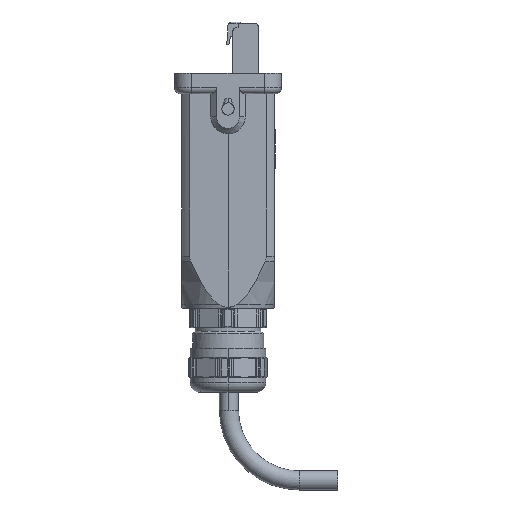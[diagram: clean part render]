
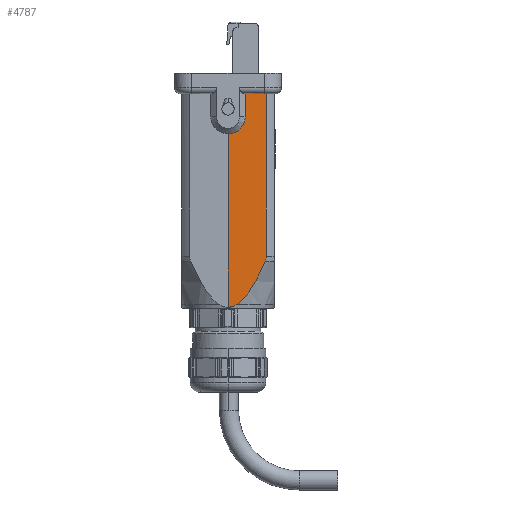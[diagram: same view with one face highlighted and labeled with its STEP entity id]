
A CAD part, left-side view. The second image highlights one B-rep face of the part: STEP entity #4787.
In plain terms, the highlighted planar face has unit normal (-1, -0.018, 0).
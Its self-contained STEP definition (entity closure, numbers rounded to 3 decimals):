
#38 = VERTEX_POINT ( 'NONE', #4069 ) ;
#94 = EDGE_CURVE ( 'NONE', #14131, #3953, #5449, .T. ) ;
#109 = VECTOR ( 'NONE', #11257, 1000. ) ;
#112 = EDGE_CURVE ( 'NONE', #2662, #7842, #10173, .T. ) ;
#185 = PLANE ( 'NONE',  #12356 ) ;
#719 = CARTESIAN_POINT ( 'NONE',  ( -11.724, -6.984, -0.005 ) ) ;
#973 = CARTESIAN_POINT ( 'NONE',  ( -11.724, -6.979, 7.139 ) ) ;
#1221 = CARTESIAN_POINT ( 'NONE',  ( -11.804, -2.405, 1.23 ) ) ;
#1362 = ORIENTED_EDGE ( 'NONE', *, *, #5481, .T. ) ;
#1663 = CARTESIAN_POINT ( 'NONE',  ( -11.82, -1.484, 0.673 ) ) ;
#1778 = CARTESIAN_POINT ( 'NONE',  ( -11.808, -2.164, 1.064 ) ) ;
#2041 = CARTESIAN_POINT ( 'NONE',  ( -11.85, 0.25, 45.7 ) ) ;
#2250 = CARTESIAN_POINT ( 'NONE',  ( -11.772, -4.228, 56.2 ) ) ;
#2547 = CARTESIAN_POINT ( 'NONE',  ( -11.679, -9.518, 12.345 ) ) ;
#2639 = CARTESIAN_POINT ( 'NONE',  ( -11.792, -3.082, 1.779 ) ) ;
#2662 = VERTEX_POINT ( 'NONE', #2250 ) ;
#2720 = LINE ( 'NONE', #3383, #3126 ) ;
#2775 = CARTESIAN_POINT ( 'NONE',  ( -11.772, -4.228, 58.7 ) ) ;
#2860 = EDGE_CURVE ( 'NONE', #16088, #9237, #11285, .T. ) ;
#3126 = VECTOR ( 'NONE', #13567, 1000. ) ;
#3211 = DIRECTION ( 'NONE',  ( 0.017, -1., 0. ) ) ;
#3382 = VECTOR ( 'NONE', #13301, 1000. ) ;
#3383 = CARTESIAN_POINT ( 'NONE',  ( -11.671, -10.012, 56.2 ) ) ;
#3425 = CARTESIAN_POINT ( 'NONE',  ( -11.674, -9.808, 13.22 ) ) ;
#3953 = VERTEX_POINT ( 'NONE', #13224 ) ;
#3993 = CARTESIAN_POINT ( 'NONE',  ( -11.812, -1.913, 0.92 ) ) ;
#4069 = CARTESIAN_POINT ( 'NONE',  ( -11.772, -4.228, 50.1 ) ) ;
#4302 = CARTESIAN_POINT ( 'NONE',  ( -11.671, -10.012, 60. ) ) ;
#4396 = ORIENTED_EDGE ( 'NONE', *, *, #7947, .F. ) ;
#4515 = DIRECTION ( 'NONE',  ( -1., -0.017, 0. ) ) ;
#4787 = ADVANCED_FACE ( 'NONE', ( #15510 ), #185, .T. ) ;
#5106 = ORIENTED_EDGE ( 'NONE', *, *, #94, .T. ) ;
#5221 = CARTESIAN_POINT ( 'NONE',  ( -11.842, -0.64, 0.388 ) ) ;
#5359 = CARTESIAN_POINT ( 'NONE',  ( -11.674, -9.808, 60. ) ) ;
#5368 = ORIENTED_EDGE ( 'NONE', *, *, #112, .F. ) ;
#5449 = LINE ( 'NONE', #5359, #10594 ) ;
#5481 = EDGE_CURVE ( 'NONE', #6294, #16088, #6124, .T. ) ;
#5786 = EDGE_CURVE ( 'NONE', #10080, #6294, #9073, .T. ) ;
#5964 = EDGE_CURVE ( 'NONE', #38, #10080, #12816, .T. ) ;
#6122 = CARTESIAN_POINT ( 'NONE',  ( -11.75, -5.479, 56.2 ) ) ;
#6124 = LINE ( 'NONE', #719, #109 ) ;
#6137 = CARTESIAN_POINT ( 'NONE',  ( -11.679, -9.518, 12.345 ) ) ;
#6294 = VERTEX_POINT ( 'NONE', #8189 ) ;
#6470 = CARTESIAN_POINT ( 'NONE',  ( -11.812, -1.913, 0.92 ) ) ;
#6643 = CARTESIAN_POINT ( 'NONE',  ( -11.772, -4.228, 56.2 ) ) ;
#6692 = CARTESIAN_POINT ( 'NONE',  ( -11.804, -2.364, 45.654 ) ) ;
#6729 = EDGE_CURVE ( 'NONE', #9237, #14948, #15131, .T. ) ;
#6930 = CARTESIAN_POINT ( 'NONE',  ( -11.756, -5.149, 4.191 ) ) ;
#7002 = B_SPLINE_CURVE_WITH_KNOTS ( 'NONE', 3,
 ( #13920, #3425, #14323, #10798 ),
 .UNSPECIFIED., .F., .F.,
 ( 4, 4 ),
 ( 0., 0.001 ),
 .UNSPECIFIED. ) ;
#7057 = CARTESIAN_POINT ( 'NONE',  ( -11.774, -4.089, 2.812 ) ) ;
#7070 = CARTESIAN_POINT ( 'NONE',  ( -11.772, -4.228, 50.1 ) ) ;
#7326 = CARTESIAN_POINT ( 'NONE',  ( -11.781, -3.707, 2.378 ) ) ;
#7651 = CARTESIAN_POINT ( 'NONE',  ( -11.744, -5.792, 5.153 ) ) ;
#7842 = VERTEX_POINT ( 'NONE', #13572 ) ;
#7903 = EDGE_CURVE ( 'NONE', #2662, #38, #14972, .T. ) ;
#7947 = EDGE_CURVE ( 'NONE', #14131, #14948, #7002, .T. ) ;
#8092 = EDGE_LOOP ( 'NONE', ( #13898, #1362, #16124, #10033, #4396, #5106, #13352, #5368, #12761, #15097 ) ) ;
#8189 = CARTESIAN_POINT ( 'NONE',  ( -11.85, 0.245, 0.361 ) ) ;
#8205 = DIRECTION ( 'NONE',  ( 0., 0., 1. ) ) ;
#8452 = CARTESIAN_POINT ( 'NONE',  ( -11.674, -9.808, 13.68 ) ) ;
#8937 = CARTESIAN_POINT ( 'NONE',  ( -11.714, -7.522, 8.164 ) ) ;
#9073 = LINE ( 'NONE', #13683, #3382 ) ;
#9237 = VERTEX_POINT ( 'NONE', #9923 ) ;
#9246 = CARTESIAN_POINT ( 'NONE',  ( -11.796, -2.864, 1.588 ) ) ;
#9923 = CARTESIAN_POINT ( 'NONE',  ( -11.812, -1.913, 0.92 ) ) ;
#10033 = ORIENTED_EDGE ( 'NONE', *, *, #6729, .T. ) ;
#10080 = VERTEX_POINT ( 'NONE', #2041 ) ;
#10173 = B_SPLINE_CURVE_WITH_KNOTS ( 'NONE', 3,
 ( #6643, #13995, #10185, #6122 ),
 .UNSPECIFIED., .F., .F.,
 ( 4, 4 ),
 ( 0., 1. ),
 .UNSPECIFIED. ) ;
#10185 = CARTESIAN_POINT ( 'NONE',  ( -11.757, -5.062, 56.2 ) ) ;
#10594 = VECTOR ( 'NONE', #8205, 1000. ) ;
#10798 = CARTESIAN_POINT ( 'NONE',  ( -11.679, -9.518, 12.345 ) ) ;
#11113 = CARTESIAN_POINT ( 'NONE',  ( -11.772, -4.228, 47.486 ) ) ;
#11241 = CARTESIAN_POINT ( 'NONE',  ( -11.696, -8.556, 10.237 ) ) ;
#11257 = DIRECTION ( 'NONE',  ( 0.017, -0.999, -0.05 ) ) ;
#11285 = B_SPLINE_CURVE_WITH_KNOTS ( 'NONE', 3,
 ( #5221, #11715, #1663, #3993 ),
 .UNSPECIFIED., .F., .F.,
 ( 4, 4 ),
 ( 0., 1. ),
 .UNSPECIFIED. ) ;
#11715 = CARTESIAN_POINT ( 'NONE',  ( -11.827, -1.057, 0.507 ) ) ;
#11879 = CARTESIAN_POINT ( 'NONE',  ( -11.762, -4.811, 3.719 ) ) ;
#12356 = AXIS2_PLACEMENT_3D ( 'NONE', #4302, #4515, #3211 ) ;
#12761 = ORIENTED_EDGE ( 'NONE', *, *, #7903, .T. ) ;
#12816 =( BOUNDED_CURVE ( )  B_SPLINE_CURVE ( 3, ( #7070, #11113, #6692, #15030 ),
 .UNSPECIFIED., .F., .T. ) 
 B_SPLINE_CURVE_WITH_KNOTS ( ( 4, 4 ),
 ( 0., 1.588 ),
 .UNSPECIFIED. ) 
 CURVE ( )  GEOMETRIC_REPRESENTATION_ITEM ( )  RATIONAL_B_SPLINE_CURVE ( ( 1., 0.801, 0.801, 1. ) ) 
 REPRESENTATION_ITEM ( '' )  );
#12848 = EDGE_CURVE ( 'NONE', #3953, #7842, #2720, .T. ) ;
#13224 = CARTESIAN_POINT ( 'NONE',  ( -11.674, -9.808, 56.2 ) ) ;
#13301 = DIRECTION ( 'NONE',  ( 0., 0., -1. ) ) ;
#13352 = ORIENTED_EDGE ( 'NONE', *, *, #12848, .T. ) ;
#13567 = DIRECTION ( 'NONE',  ( -0.017, 1., 0. ) ) ;
#13572 = CARTESIAN_POINT ( 'NONE',  ( -11.75, -5.479, 56.2 ) ) ;
#13683 = CARTESIAN_POINT ( 'NONE',  ( -11.85, 0.25, 60. ) ) ;
#13735 = CARTESIAN_POINT ( 'NONE',  ( -11.842, -0.64, 0.388 ) ) ;
#13767 = DIRECTION ( 'NONE',  ( 0., 0., -1. ) ) ;
#13898 = ORIENTED_EDGE ( 'NONE', *, *, #5786, .T. ) ;
#13920 = CARTESIAN_POINT ( 'NONE',  ( -11.674, -9.808, 13.68 ) ) ;
#13995 = CARTESIAN_POINT ( 'NONE',  ( -11.764, -4.645, 56.2 ) ) ;
#14131 = VERTEX_POINT ( 'NONE', #8452 ) ;
#14323 = CARTESIAN_POINT ( 'NONE',  ( -11.676, -9.706, 12.765 ) ) ;
#14343 = VECTOR ( 'NONE', #13767, 1000. ) ;
#14948 = VERTEX_POINT ( 'NONE', #6137 ) ;
#14972 = LINE ( 'NONE', #2775, #14343 ) ;
#15030 = CARTESIAN_POINT ( 'NONE',  ( -11.85, 0.25, 45.7 ) ) ;
#15097 = ORIENTED_EDGE ( 'NONE', *, *, #5964, .T. ) ;
#15131 = B_SPLINE_CURVE_WITH_KNOTS ( 'NONE', 3,
 ( #6470, #1778, #1221, #9246, #2639, #7326, #7057, #11879, #6930, #7651, #15863, #973, #8937, #11241, #16157, #2547 ),
 .UNSPECIFIED., .F., .F.,
 ( 4, 2, 2, 2, 2, 2, 2, 4 ),
 ( 0.002, 0.003, 0.004, 0.006, 0.007, 0.009, 0.013, 0.016 ),
 .UNSPECIFIED. ) ;
#15510 = FACE_OUTER_BOUND ( 'NONE', #8092, .T. ) ;
#15863 = CARTESIAN_POINT ( 'NONE',  ( -11.739, -6.097, 5.644 ) ) ;
#16088 = VERTEX_POINT ( 'NONE', #13735 ) ;
#16124 = ORIENTED_EDGE ( 'NONE', *, *, #2860, .T. ) ;
#16157 = CARTESIAN_POINT ( 'NONE',  ( -11.688, -9.046, 11.287 ) ) ;
